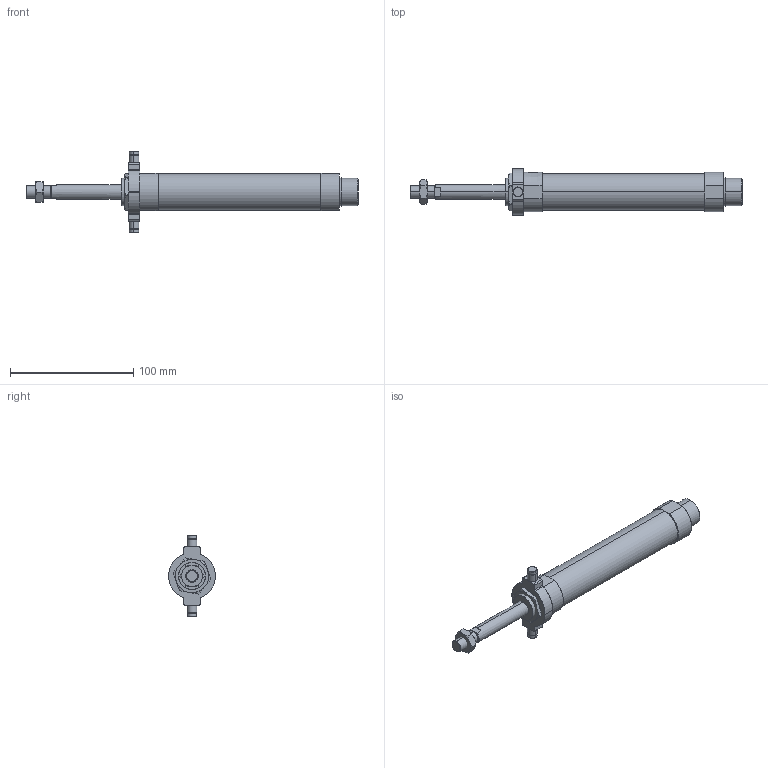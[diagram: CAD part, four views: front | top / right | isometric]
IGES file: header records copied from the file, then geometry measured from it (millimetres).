
Start section: SolidWorks IGES file using analytic representation for surfaces
Global section: file name: C:\Users\Toshiba\Desktop\J#0-25-50-T.IGS; native system: SolidWorks 2014; preprocessor: SolidWorks 2014; author: Toshiba; date: 160308.143819; units: millimetre
Bounding box: 269 x 38 x 66 mm (x, y, z)
Surface area: 28647.7 mm2 (no closed solid volume)
Topology: 0 solids, 0 shells, 132 faces, 2166 edges, 2164 vertices
Faces by surface type: bspline 71, revolution 61
